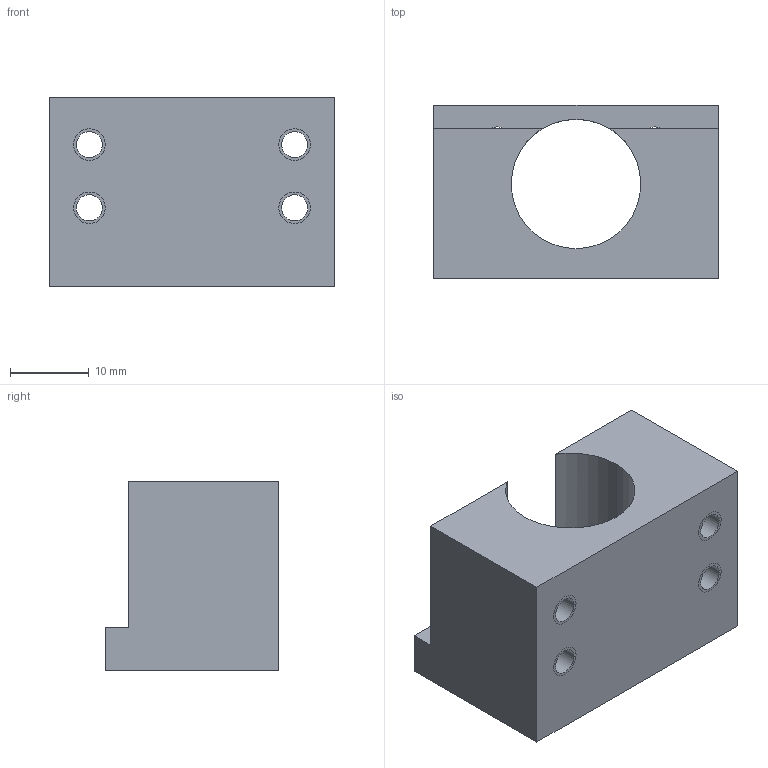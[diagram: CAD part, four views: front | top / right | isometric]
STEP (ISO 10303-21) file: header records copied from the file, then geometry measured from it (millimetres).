
FILE_DESCRIPTION((''),'2;1');
FILE_NAME('NH08A','2019-11-06T',('ASUS'),(''),'PRO/ENGINEER BY PARAMETRIC TECHNOLOGY CORPORATION, 2010280','PRO/ENGINEER BY PARAMETRIC TECHNOLOGY CORPORATION, 2010280','');
FILE_SCHEMA(('CONFIG_CONTROL_DESIGN'));
Length unit declared in the file: millimetre
Products named in the file (1): NH08A
Bounding box: 36 x 22 x 24 mm (x, y, z)
Volume: 11122.7 mm3; surface area: 6279.2 mm2
Topology: 1 solids, 5 shells, 65 faces, 174 edges, 116 vertices
Faces by surface type: cylinder 40, plane 19, cone 6
Entity records: 2193 total; most frequent: CARTESIAN_POINT 428, DIRECTION 392, ORIENTED_EDGE 324, EDGE_CURVE 170, AXIS2_PLACEMENT_3D 160, VERTEX_POINT 116, CIRCLE 94, EDGE_LOOP 88
